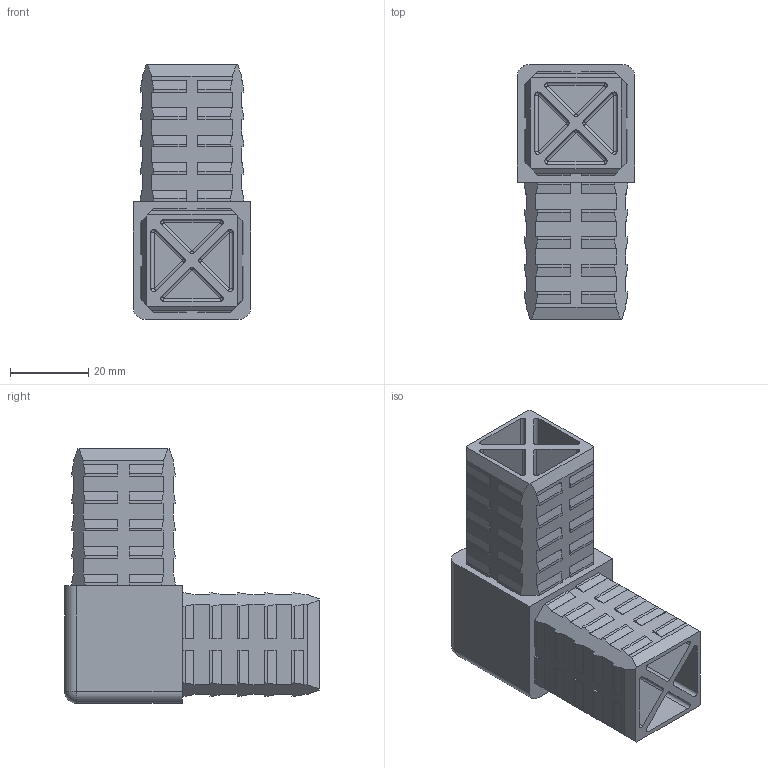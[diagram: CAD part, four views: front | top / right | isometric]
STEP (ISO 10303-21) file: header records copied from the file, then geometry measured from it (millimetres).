
FILE_DESCRIPTION (( 'STEP AP214' ), '1' );
FILE_NAME ('L15812 impression3D.step', '2024-12-03T16:19:05', ( '' ), ( '' ), 'SwSTEP 2.0', 'SolidWorks 2023', '' );
FILE_SCHEMA (( 'AUTOMOTIVE_DESIGN' ));
Length unit declared in the file: millimetre
Products named in the file (1): L15812 impression3D
Bounding box: 30 x 65 x 65 mm (x, y, z)
Volume: 41181.8 mm3; surface area: 27951.4 mm2
Topology: 1 solids, 5 shells, 563 faces, 1577 edges, 1012 vertices
Faces by surface type: plane 484, cylinder 53, sphere 26
Entity records: 17470 total; most frequent: CARTESIAN_POINT 3107, ORIENTED_EDGE 3086, DIRECTION 2777, EDGE_CURVE 1543, VECTOR 1437, LINE 1437, VERTEX_POINT 1000, AXIS2_PLACEMENT_3D 670
